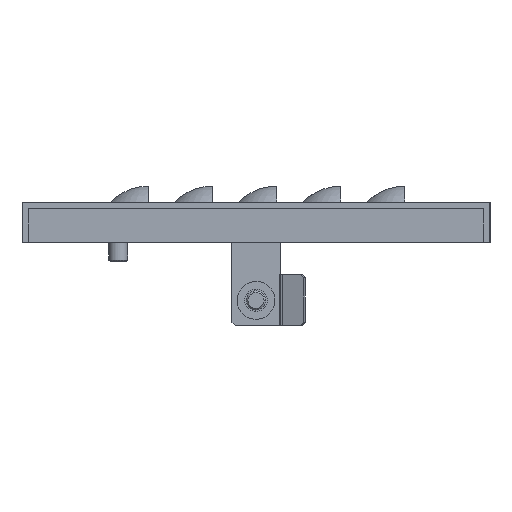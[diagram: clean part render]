
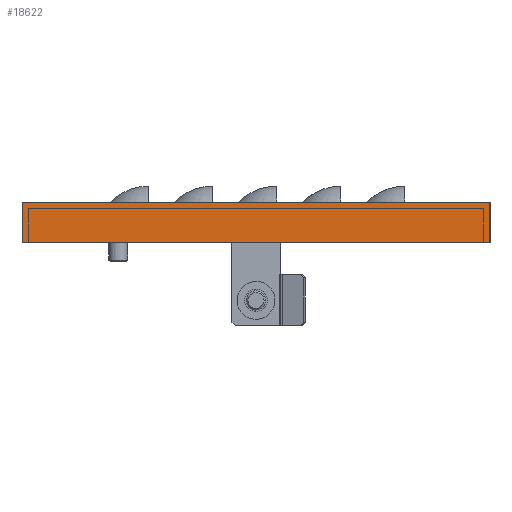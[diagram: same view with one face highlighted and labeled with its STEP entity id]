
A CAD part, left-side view. The second image highlights one B-rep face of the part: STEP entity #18622.
In plain terms, the highlighted planar face has unit normal (-1, 0, 0).
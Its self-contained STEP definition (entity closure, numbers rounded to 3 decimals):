
#182 = DIRECTION ( 'NONE',  ( 0., 0., -1. ) ) ;
#776 = ORIENTED_EDGE ( 'NONE', *, *, #5601, .F. ) ;
#2548 = VECTOR ( 'NONE', #4924, 1000. ) ;
#3051 = VERTEX_POINT ( 'NONE', #4880 ) ;
#3188 = DIRECTION ( 'NONE',  ( 0., 1., 0. ) ) ;
#4880 = CARTESIAN_POINT ( 'NONE',  ( -795., 0., 0. ) ) ;
#4924 = DIRECTION ( 'NONE',  ( 0., -1., 0. ) ) ;
#5273 = DIRECTION ( 'NONE',  ( 0., 0., -1. ) ) ;
#5601 = EDGE_CURVE ( 'NONE', #21228, #17871, #23256, .T. ) ;
#5673 = CARTESIAN_POINT ( 'NONE',  ( -795., -73., 0. ) ) ;
#6205 = CARTESIAN_POINT ( 'NONE',  ( -795., 0., -12.5 ) ) ;
#6746 = EDGE_CURVE ( 'NONE', #21433, #17871, #6891, .T. ) ;
#6891 = LINE ( 'NONE', #13565, #2548 ) ;
#7271 = CARTESIAN_POINT ( 'NONE',  ( -795., -73., -2. ) ) ;
#9880 = CARTESIAN_POINT ( 'NONE',  ( -795., 0., 2.928 ) ) ;
#12506 = EDGE_CURVE ( 'NONE', #3051, #21433, #18270, .T. ) ;
#13142 = VECTOR ( 'NONE', #182, 1000. ) ;
#13565 = CARTESIAN_POINT ( 'NONE',  ( -795., -73., -12.5 ) ) ;
#13761 = VECTOR ( 'NONE', #5273, 1000. ) ;
#14223 = AXIS2_PLACEMENT_3D ( 'NONE', #7271, #23159, #3188 ) ;
#15228 = ORIENTED_EDGE ( 'NONE', *, *, #12506, .T. ) ;
#15965 = ORIENTED_EDGE ( 'NONE', *, *, #6746, .T. ) ;
#16260 = EDGE_CURVE ( 'NONE', #21228, #3051, #25476, .T. ) ;
#17862 = VECTOR ( 'NONE', #19717, 1000. ) ;
#17871 = VERTEX_POINT ( 'NONE', #25808 ) ;
#18270 = LINE ( 'NONE', #9880, #13142 ) ;
#18622 = ADVANCED_FACE ( 'NONE', ( #19081 ), #25244, .F. ) ;
#19081 = FACE_OUTER_BOUND ( 'NONE', #19673, .T. ) ;
#19673 = EDGE_LOOP ( 'NONE', ( #23673, #15228, #15965, #776 ) ) ;
#19717 = DIRECTION ( 'NONE',  ( 0., 1., 0. ) ) ;
#21228 = VERTEX_POINT ( 'NONE', #25502 ) ;
#21433 = VERTEX_POINT ( 'NONE', #6205 ) ;
#23159 = DIRECTION ( 'NONE',  ( 1., 0., 0. ) ) ;
#23256 = LINE ( 'NONE', #25603, #13761 ) ;
#23673 = ORIENTED_EDGE ( 'NONE', *, *, #16260, .T. ) ;
#25244 = PLANE ( 'NONE',  #14223 ) ;
#25476 = LINE ( 'NONE', #5673, #17862 ) ;
#25502 = CARTESIAN_POINT ( 'NONE',  ( -795., -146., 0. ) ) ;
#25603 = CARTESIAN_POINT ( 'NONE',  ( -795., -146., 2.928 ) ) ;
#25808 = CARTESIAN_POINT ( 'NONE',  ( -795., -146., -12.5 ) ) ;
